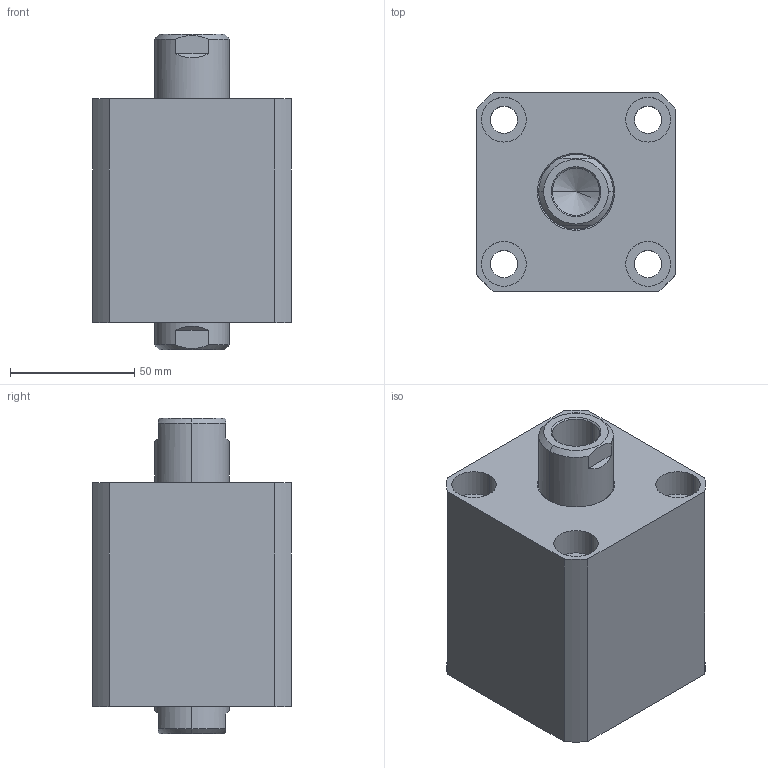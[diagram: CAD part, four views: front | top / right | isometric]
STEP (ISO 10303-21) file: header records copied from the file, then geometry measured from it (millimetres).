
FILE_DESCRIPTION (( 'STEP AP203' ), '1' );
FILE_NAME ('CHTB-SW50-15N.STEP', '2018-05-19T09:20:14', ( '' ), ( '' ), 'SwSTEP 2.0', 'SolidWorks 2015', '' );
FILE_SCHEMA (( 'CONFIG_CONTROL_DESIGN' ));
Length unit declared in the file: millimetre
Products named in the file (4): 掛极SW50-15N; CHTB-SW50-15N; ヶ裔; 活塞杆SW50-15N
Assembly tree (3 placements, depth 2):
  CHTB-SW50-15N
    掛极SW50-15N
    活塞杆SW50-15N
    ヶ裔
Bounding box: 80 x 80 x 127 mm (x, y, z)
Volume: 500540.1 mm3; surface area: 103988.1 mm2
Topology: 3 solids, 3 shells, 225 faces, 528 edges, 331 vertices
Faces by surface type: cylinder 118, plane 46, cone 33, torus 24, bspline 4
Entity records: 9698 total; most frequent: CARTESIAN_POINT 4235, DIRECTION 1104, ORIENTED_EDGE 1040, EDGE_CURVE 520, AXIS2_PLACEMENT_3D 462, VERTEX_POINT 331, EDGE_LOOP 271, CIRCLE 235
